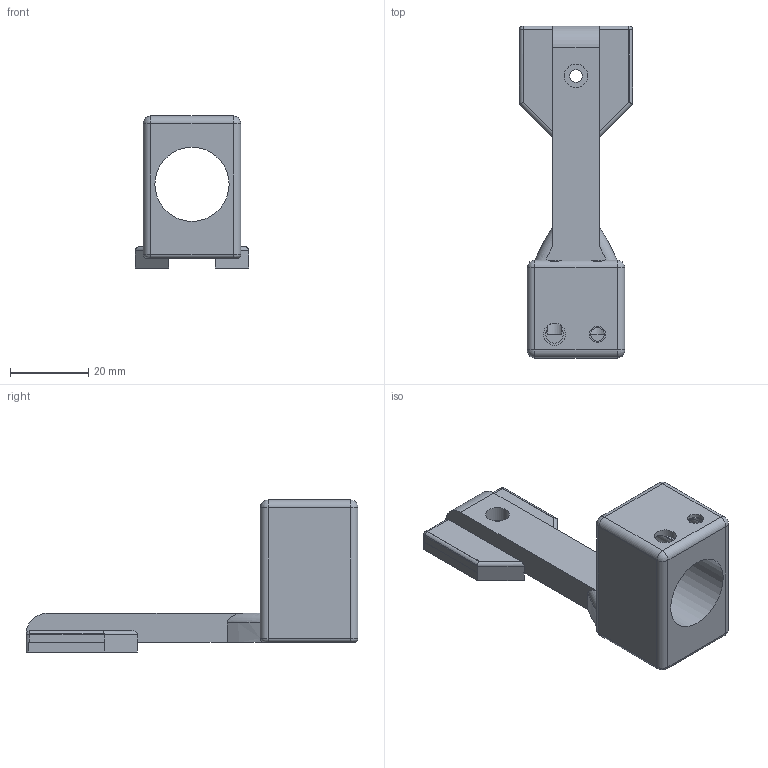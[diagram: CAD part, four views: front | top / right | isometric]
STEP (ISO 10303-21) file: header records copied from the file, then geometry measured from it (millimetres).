
FILE_DESCRIPTION(/* description */ (''),/* implementation_level */ '2;1');
FILE_NAME(/* name */ '/Users/simonhu/OneDrive - FH JOANNEUM/5Semsester/Projekt/3D/turret_final/sensor_mount.step',/* time_stamp */ '2022-01-27T19:29:42+01:00',/* author */ (''),/* organization */ (''),/* preprocessor_version */ 'ST-DEVELOPER v18.1',/* originating_system */ 'Autodesk Translation Framework v10.13.0.1454',/* authorisation */ '');
FILE_SCHEMA (('AUTOMOTIVE_DESIGN { 1 0 10303 214 3 1 1 }'));
Length unit declared in the file: millimetre
Products named in the file (1): turret_top_redesign_felix_kopie
Bounding box: 29 x 85 x 38.95 mm (x, y, z)
Volume: 21642.9 mm3; surface area: 9871.7 mm2
Topology: 1 solids, 1 shells, 103 faces, 264 edges, 164 vertices
Faces by surface type: plane 50, cylinder 41, sphere 6, bspline 4, torus 2
Full cylindrical faces by diameter (mm): 3.2 x2, 3.5 x1, 4.1 x1, 5.5 x2, 5.65 x1, 6 x1, 19 x1
Entity records: 3336 total; most frequent: CARTESIAN_POINT 782, DIRECTION 540, ORIENTED_EDGE 528, EDGE_CURVE 264, AXIS2_PLACEMENT_3D 198, VERTEX_POINT 164, LINE 144, VECTOR 144
